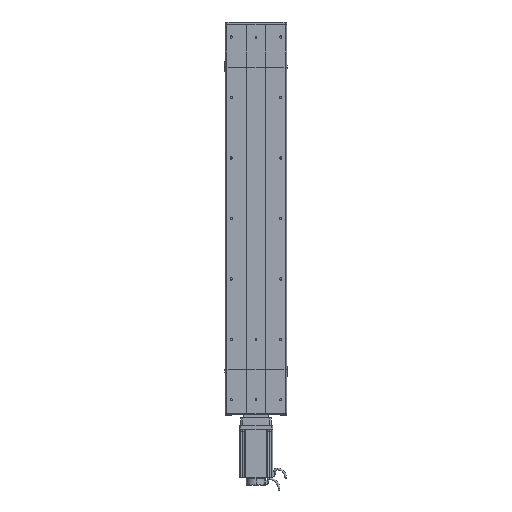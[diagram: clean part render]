
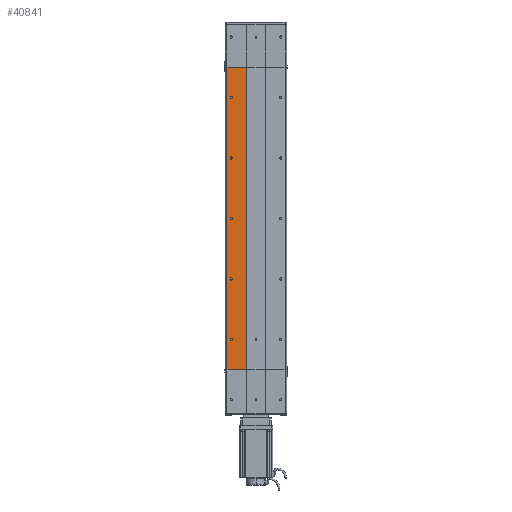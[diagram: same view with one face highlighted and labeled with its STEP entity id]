
A CAD part, front view. The second image highlights one B-rep face of the part: STEP entity #40841.
In plain terms, the highlighted planar face has unit normal (0, -1, 0).
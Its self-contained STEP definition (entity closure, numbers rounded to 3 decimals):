
#39989 = VERTEX_POINT ( 'NONE', #69206 ) ;
#39997 = VERTEX_POINT ( 'NONE', #69235 ) ;
#39998 = VERTEX_POINT ( 'NONE', #69279 ) ;
#40001 = VERTEX_POINT ( 'NONE', #69234 ) ;
#40002 = VERTEX_POINT ( 'NONE', #69282 ) ;
#40008 = EDGE_CURVE ( 'NONE', #39998, #39997, #68930, .T. ) ;
#40012 = EDGE_CURVE ( 'NONE', #40015, #39989, #69342, .T. ) ;
#40015 = VERTEX_POINT ( 'NONE', #69530 ) ;
#40020 = EDGE_CURVE ( 'NONE', #40064, #40023, #69406, .T. ) ;
#40023 = VERTEX_POINT ( 'NONE', #69378 ) ;
#40064 = VERTEX_POINT ( 'NONE', #69501 ) ;
#40090 = EDGE_CURVE ( 'NONE', #40002, #40001, #69477, .T. ) ;
#40308 = EDGE_CURVE ( 'NONE', #40311, #40310, #70297, .T. ) ;
#40310 = VERTEX_POINT ( 'NONE', #70134 ) ;
#40311 = VERTEX_POINT ( 'NONE', #70133 ) ;
#40386 = ORIENTED_EDGE ( 'NONE', *, *, #40550, .F. ) ;
#40387 = EDGE_CURVE ( 'NONE', #39997, #39998, #70470, .T. ) ;
#40388 = VERTEX_POINT ( 'NONE', #70469 ) ;
#40390 = ORIENTED_EDGE ( 'NONE', *, *, #40554, .T. ) ;
#40391 = VERTEX_POINT ( 'NONE', #70377 ) ;
#40394 = EDGE_LOOP ( 'NONE', ( #40397, #40741 ) ) ;
#40395 = VERTEX_POINT ( 'NONE', #70381 ) ;
#40397 = ORIENTED_EDGE ( 'NONE', *, *, #40750, .F. ) ;
#40532 = EDGE_LOOP ( 'NONE', ( #40546, #40834 ) ) ;
#40533 = EDGE_CURVE ( 'NONE', #40395, #40388, #70601, .T. ) ;
#40535 = VERTEX_POINT ( 'NONE', #70863 ) ;
#40536 = ORIENTED_EDGE ( 'NONE', *, *, #40533, .T. ) ;
#40538 = EDGE_CURVE ( 'NONE', #40535, #40388, #70916, .T. ) ;
#40542 = ORIENTED_EDGE ( 'NONE', *, *, #40538, .F. ) ;
#40543 = EDGE_CURVE ( 'NONE', #40535, #40391, #70788, .T. ) ;
#40546 = ORIENTED_EDGE ( 'NONE', *, *, #40751, .F. ) ;
#40549 = ORIENTED_EDGE ( 'NONE', *, *, #40008, .F. ) ;
#40550 = EDGE_CURVE ( 'NONE', #40310, #40311, #70819, .T. ) ;
#40551 = EDGE_LOOP ( 'NONE', ( #40390, #40536, #40542, #40583 ) ) ;
#40553 = ORIENTED_EDGE ( 'NONE', *, *, #40308, .F. ) ;
#40554 = EDGE_CURVE ( 'NONE', #40391, #40395, #70909, .T. ) ;
#40583 = ORIENTED_EDGE ( 'NONE', *, *, #40543, .T. ) ;
#40702 = ORIENTED_EDGE ( 'NONE', *, *, #40090, .F. ) ;
#40740 = EDGE_LOOP ( 'NONE', ( #40386, #40553 ) ) ;
#40741 = ORIENTED_EDGE ( 'NONE', *, *, #40012, .F. ) ;
#40750 = EDGE_CURVE ( 'NONE', #39989, #40015, #71339, .T. ) ;
#40751 = EDGE_CURVE ( 'NONE', #40023, #40064, #71308, .T. ) ;
#40785 = EDGE_LOOP ( 'NONE', ( #40827, #40702 ) ) ;
#40816 = EDGE_CURVE ( 'NONE', #40001, #40002, #71377, .T. ) ;
#40827 = ORIENTED_EDGE ( 'NONE', *, *, #40816, .F. ) ;
#40834 = ORIENTED_EDGE ( 'NONE', *, *, #40020, .F. ) ;
#40837 = EDGE_LOOP ( 'NONE', ( #40842, #40549 ) ) ;
#40841 = ADVANCED_FACE ( 'NONE', ( #71399, #70602, #70735, #71302, #71292, #71398 ), #71556, .F. ) ;
#40842 = ORIENTED_EDGE ( 'NONE', *, *, #40387, .F. ) ;
#68515 = DIRECTION ( 'NONE',  ( 1., 0., 0. ) ) ;
#68929 = DIRECTION ( 'NONE',  ( 0., -1., 0. ) ) ;
#68930 = CIRCLE ( 'NONE', #68946, 4. ) ;
#68945 = CARTESIAN_POINT ( 'NONE',  ( -82., -34.5, 300. ) ) ;
#68946 = AXIS2_PLACEMENT_3D ( 'NONE', #68945, #68929, #68515 ) ;
#69206 = CARTESIAN_POINT ( 'NONE',  ( -78., -34.5, 900. ) ) ;
#69234 = CARTESIAN_POINT ( 'NONE',  ( -78., -34.5, 500. ) ) ;
#69235 = CARTESIAN_POINT ( 'NONE',  ( -78., -34.5, 300. ) ) ;
#69279 = CARTESIAN_POINT ( 'NONE',  ( -86., -34.5, 300. ) ) ;
#69280 = DIRECTION ( 'NONE',  ( 1., 0., 0. ) ) ;
#69281 = DIRECTION ( 'NONE',  ( 0., -1., 0. ) ) ;
#69282 = CARTESIAN_POINT ( 'NONE',  ( -86., -34.5, 500. ) ) ;
#69342 = CIRCLE ( 'NONE', #69536, 4. ) ;
#69378 = CARTESIAN_POINT ( 'NONE',  ( -78., -34.5, 700. ) ) ;
#69402 = DIRECTION ( 'NONE',  ( 1., 0., 0. ) ) ;
#69403 = DIRECTION ( 'NONE',  ( 0., -1., 0. ) ) ;
#69406 = CIRCLE ( 'NONE', #69556, 4. ) ;
#69477 = CIRCLE ( 'NONE', #69490, 4. ) ;
#69489 = CARTESIAN_POINT ( 'NONE',  ( -82., -34.5, 500. ) ) ;
#69490 = AXIS2_PLACEMENT_3D ( 'NONE', #69489, #69281, #69280 ) ;
#69501 = CARTESIAN_POINT ( 'NONE',  ( -86., -34.5, 700. ) ) ;
#69524 = DIRECTION ( 'NONE',  ( 0., -1., 0. ) ) ;
#69529 = DIRECTION ( 'NONE',  ( 1., 0., 0. ) ) ;
#69530 = CARTESIAN_POINT ( 'NONE',  ( -86., -34.5, 900. ) ) ;
#69536 = AXIS2_PLACEMENT_3D ( 'NONE', #69542, #69524, #69529 ) ;
#69542 = CARTESIAN_POINT ( 'NONE',  ( -82., -34.5, 900. ) ) ;
#69555 = CARTESIAN_POINT ( 'NONE',  ( -82., -34.5, 700. ) ) ;
#69556 = AXIS2_PLACEMENT_3D ( 'NONE', #69555, #69403, #69402 ) ;
#70133 = CARTESIAN_POINT ( 'NONE',  ( -86., -34.5, 100. ) ) ;
#70134 = CARTESIAN_POINT ( 'NONE',  ( -78., -34.5, 100. ) ) ;
#70136 = CARTESIAN_POINT ( 'NONE',  ( -82., -34.5, 100. ) ) ;
#70297 = CIRCLE ( 'NONE', #70326, 4. ) ;
#70324 = DIRECTION ( 'NONE',  ( 1., 0., 0. ) ) ;
#70325 = DIRECTION ( 'NONE',  ( 0., -1., 0. ) ) ;
#70326 = AXIS2_PLACEMENT_3D ( 'NONE', #70136, #70325, #70324 ) ;
#70377 = CARTESIAN_POINT ( 'NONE',  ( -96., -34.5, 0. ) ) ;
#70381 = CARTESIAN_POINT ( 'NONE',  ( -30., -34.5, 0. ) ) ;
#70394 = CARTESIAN_POINT ( 'NONE',  ( -82., -34.5, 300. ) ) ;
#70406 = DIRECTION ( 'NONE',  ( 1., 0., 0. ) ) ;
#70407 = DIRECTION ( 'NONE',  ( 0., -1., 0. ) ) ;
#70408 = AXIS2_PLACEMENT_3D ( 'NONE', #70394, #70407, #70406 ) ;
#70469 = CARTESIAN_POINT ( 'NONE',  ( -30., -34.5, 1000. ) ) ;
#70470 = CIRCLE ( 'NONE', #70408, 4. ) ;
#70598 = DIRECTION ( 'NONE',  ( 0., 0., 1. ) ) ;
#70599 = VECTOR ( 'NONE', #70598, 1000. ) ;
#70600 = CARTESIAN_POINT ( 'NONE',  ( -30., -34.5, 0. ) ) ;
#70601 = LINE ( 'NONE', #70600, #70599 ) ;
#70602 = FACE_BOUND ( 'NONE', #40532, .T. ) ;
#70735 = FACE_BOUND ( 'NONE', #40785, .T. ) ;
#70788 = LINE ( 'NONE', #70844, #70809 ) ;
#70809 = VECTOR ( 'NONE', #70843, 1000. ) ;
#70810 = DIRECTION ( 'NONE',  ( 0., -1., 0. ) ) ;
#70811 = CARTESIAN_POINT ( 'NONE',  ( -82., -34.5, 100. ) ) ;
#70812 = AXIS2_PLACEMENT_3D ( 'NONE', #70811, #70810, #70870 ) ;
#70819 = CIRCLE ( 'NONE', #70812, 4. ) ;
#70840 = CARTESIAN_POINT ( 'NONE',  ( -96., -34.5, 1000. ) ) ;
#70843 = DIRECTION ( 'NONE',  ( 0., 0., -1. ) ) ;
#70844 = CARTESIAN_POINT ( 'NONE',  ( -96., -34.5, 1000. ) ) ;
#70863 = CARTESIAN_POINT ( 'NONE',  ( -96., -34.5, 1000. ) ) ;
#70869 = DIRECTION ( 'NONE',  ( 1., 0., 0. ) ) ;
#70870 = DIRECTION ( 'NONE',  ( 1., 0., 0. ) ) ;
#70876 = VECTOR ( 'NONE', #70869, 1000. ) ;
#70896 = DIRECTION ( 'NONE',  ( 1., 0., 0. ) ) ;
#70897 = VECTOR ( 'NONE', #70896, 1000. ) ;
#70908 = CARTESIAN_POINT ( 'NONE',  ( -96., -34.5, 0. ) ) ;
#70909 = LINE ( 'NONE', #70908, #70897 ) ;
#70916 = LINE ( 'NONE', #70840, #70876 ) ;
#71170 = AXIS2_PLACEMENT_3D ( 'NONE', #71338, #71299, #71298 ) ;
#71217 = CARTESIAN_POINT ( 'NONE',  ( -82., -34.5, 900. ) ) ;
#71292 = FACE_BOUND ( 'NONE', #40740, .T. ) ;
#71298 = DIRECTION ( 'NONE',  ( 1., 0., 0. ) ) ;
#71299 = DIRECTION ( 'NONE',  ( 0., -1., 0. ) ) ;
#71302 = FACE_BOUND ( 'NONE', #40837, .T. ) ;
#71304 = DIRECTION ( 'NONE',  ( 1., 0., 0. ) ) ;
#71305 = DIRECTION ( 'NONE',  ( 0., -1., 0. ) ) ;
#71306 = AXIS2_PLACEMENT_3D ( 'NONE', #71217, #71305, #71304 ) ;
#71308 = CIRCLE ( 'NONE', #71170, 4. ) ;
#71338 = CARTESIAN_POINT ( 'NONE',  ( -82., -34.5, 700. ) ) ;
#71339 = CIRCLE ( 'NONE', #71306, 4. ) ;
#71377 = CIRCLE ( 'NONE', #71530, 4. ) ;
#71398 = FACE_OUTER_BOUND ( 'NONE', #40551, .T. ) ;
#71399 = FACE_BOUND ( 'NONE', #40394, .T. ) ;
#71527 = DIRECTION ( 'NONE',  ( 1., 0., 0. ) ) ;
#71528 = DIRECTION ( 'NONE',  ( 0., -1., 0. ) ) ;
#71529 = CARTESIAN_POINT ( 'NONE',  ( -82., -34.5, 500. ) ) ;
#71530 = AXIS2_PLACEMENT_3D ( 'NONE', #71529, #71528, #71527 ) ;
#71556 = PLANE ( 'NONE',  #71557 ) ;
#71557 = AXIS2_PLACEMENT_3D ( 'NONE', #71714, #71563, #71562 ) ;
#71562 = DIRECTION ( 'NONE',  ( -1., 0., 0. ) ) ;
#71563 = DIRECTION ( 'NONE',  ( 0., 1., 0. ) ) ;
#71714 = CARTESIAN_POINT ( 'NONE',  ( -96., -34.5, 1000. ) ) ;
